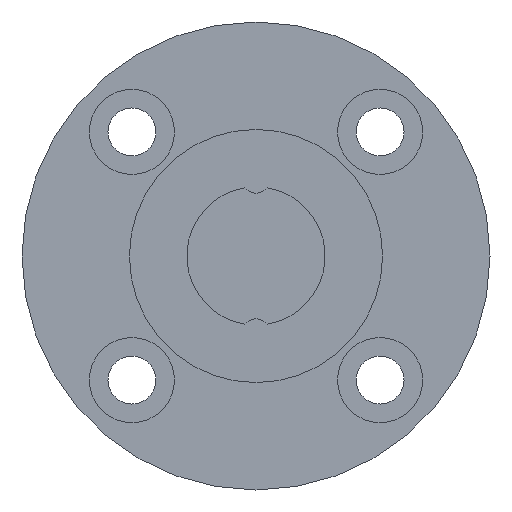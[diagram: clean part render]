
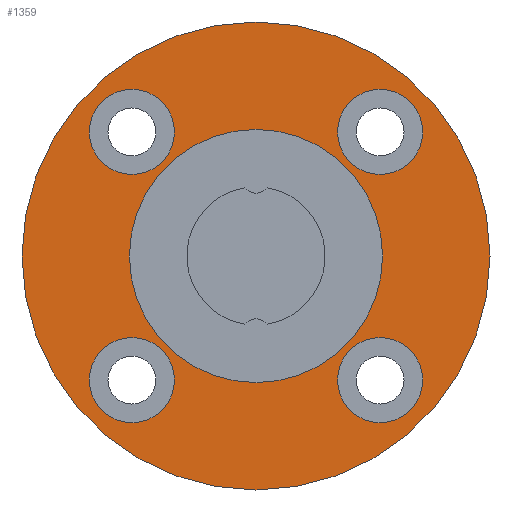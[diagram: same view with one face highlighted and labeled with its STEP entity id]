
A CAD part, left-side view. The second image highlights one B-rep face of the part: STEP entity #1359.
In plain terms, the highlighted planar face has unit normal (-1, 0, 0).
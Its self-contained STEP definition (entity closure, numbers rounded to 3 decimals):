
#357=CARTESIAN_POINT('',(8.,-11.667,-7.667));
#358=VERTEX_POINT('',#357);
#359=CARTESIAN_POINT('',(8.,-11.667,-11.667));
#360=DIRECTION('',(1.0,0.0,0.0));
#361=DIRECTION('',(0.0,0.0,1.0));
#362=AXIS2_PLACEMENT_3D('',#359,#360,#361);
#363=CIRCLE('',#362,4.0);
#364=EDGE_CURVE('',#358,#358,#363,.T.);
#467=CARTESIAN_POINT('',(8.,11.667,-7.667));
#468=VERTEX_POINT('',#467);
#469=CARTESIAN_POINT('',(8.,11.667,-11.667));
#470=DIRECTION('',(1.0,0.0,0.0));
#471=DIRECTION('',(0.0,0.0,1.0));
#472=AXIS2_PLACEMENT_3D('',#469,#470,#471);
#473=CIRCLE('',#472,4.0);
#474=EDGE_CURVE('',#468,#468,#473,.T.);
#577=CARTESIAN_POINT('',(8.0,11.667,15.667));
#578=VERTEX_POINT('',#577);
#579=CARTESIAN_POINT('',(8.,11.667,11.667));
#580=DIRECTION('',(1.0,0.0,0.0));
#581=DIRECTION('',(0.0,0.0,1.0));
#582=AXIS2_PLACEMENT_3D('',#579,#580,#581);
#583=CIRCLE('',#582,4.0);
#584=EDGE_CURVE('',#578,#578,#583,.T.);
#687=CARTESIAN_POINT('',(8.0,-11.667,15.667));
#688=VERTEX_POINT('',#687);
#689=CARTESIAN_POINT('',(8.,-11.667,11.667));
#690=DIRECTION('',(1.0,0.0,0.0));
#691=DIRECTION('',(0.0,0.0,1.0));
#692=AXIS2_PLACEMENT_3D('',#689,#690,#691);
#693=CIRCLE('',#692,4.0);
#694=EDGE_CURVE('',#688,#688,#693,.T.);
#1313=CARTESIAN_POINT('',(8.,0.0,22.));
#1314=VERTEX_POINT('',#1313);
#1315=CARTESIAN_POINT('',(8.,0.0,0.));
#1316=DIRECTION('',(-1.0,0.0,0.0));
#1317=DIRECTION('',(0.0,0.0,1.0));
#1318=AXIS2_PLACEMENT_3D('',#1315,#1316,#1317);
#1319=CIRCLE('',#1318,22.);
#1320=EDGE_CURVE('',#1314,#1314,#1319,.T.);
#1328=CARTESIAN_POINT('',(8.0,0.0,16.95));
#1329=DIRECTION('',(-1.0,0.0,0.0));
#1330=DIRECTION('',(0.0,0.0,1.0));
#1331=AXIS2_PLACEMENT_3D('',#1328,#1329,#1330);
#1332=PLANE('',#1331);
#1333=ORIENTED_EDGE('',*,*,#1320,.T.);
#1334=EDGE_LOOP('',(#1333));
#1335=FACE_OUTER_BOUND('',#1334,.T.);
#1336=ORIENTED_EDGE('',*,*,#364,.T.);
#1337=EDGE_LOOP('',(#1336));
#1338=FACE_BOUND('',#1337,.T.);
#1339=ORIENTED_EDGE('',*,*,#474,.T.);
#1340=EDGE_LOOP('',(#1339));
#1341=FACE_BOUND('',#1340,.T.);
#1342=ORIENTED_EDGE('',*,*,#584,.T.);
#1343=EDGE_LOOP('',(#1342));
#1344=FACE_BOUND('',#1343,.T.);
#1345=ORIENTED_EDGE('',*,*,#694,.T.);
#1346=EDGE_LOOP('',(#1345));
#1347=FACE_BOUND('',#1346,.T.);
#1348=CARTESIAN_POINT('',(8.,0.0,11.9));
#1349=VERTEX_POINT('',#1348);
#1350=CARTESIAN_POINT('',(8.,0.0,0.));
#1351=DIRECTION('',(-1.0,0.0,0.0));
#1352=DIRECTION('',(0.0,0.0,1.0));
#1353=AXIS2_PLACEMENT_3D('',#1350,#1351,#1352);
#1354=CIRCLE('',#1353,11.9);
#1355=EDGE_CURVE('',#1349,#1349,#1354,.T.);
#1356=ORIENTED_EDGE('',*,*,#1355,.F.);
#1357=EDGE_LOOP('',(#1356));
#1358=FACE_BOUND('',#1357,.T.);
#1359=ADVANCED_FACE('',(#1335,#1338,#1341,#1344,#1347,#1358),#1332,.T.);
